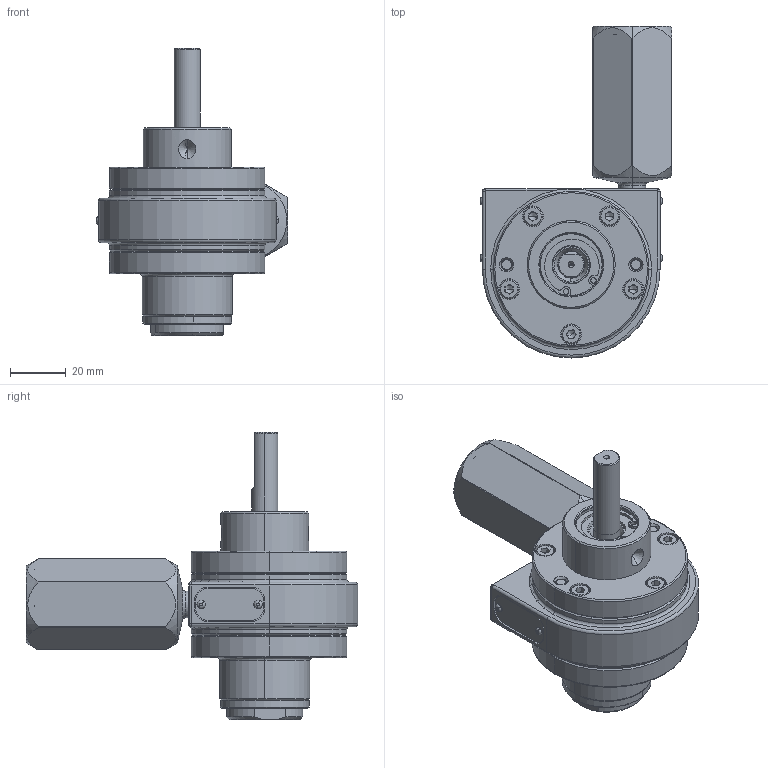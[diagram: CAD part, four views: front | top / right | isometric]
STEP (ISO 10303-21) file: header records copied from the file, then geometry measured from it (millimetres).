
FILE_DESCRIPTION (( 'STEP AP214' ), '1' );
FILE_NAME ('1VMT-Hub (Alu. End Plates)_23-04-26.STEP', '2026-04-23T09:09:19', ( '' ), ( '' ), 'SwSTEP 2.0', 'SolidWorks 2017', '' );
FILE_SCHEMA (( 'AUTOMOTIVE_DESIGN' ));
Length unit declared in the file: millimetre
Products named in the file (2): 1VMT-Hub (Alu. End Plates)_23-04-26
Bounding box: 69.05 x 119.58 x 103.42 mm (x, y, z)
Surface area: 52353 mm2 (no closed solid volume)
Topology: 0 solids, 33 shells, 934 faces, 2418 edges, 1547 vertices
Faces by surface type: plane 354, cylinder 315, cone 199, torus 60, bspline 6
Entity records: 40286 total; most frequent: CARTESIAN_POINT 6999, DIRECTION 5141, ORIENTED_EDGE 4579, EDGE_CURVE 2392, AXIS2_PLACEMENT_3D 1981, VERTEX_POINT 1547, LINE 1179, VECTOR 1179
